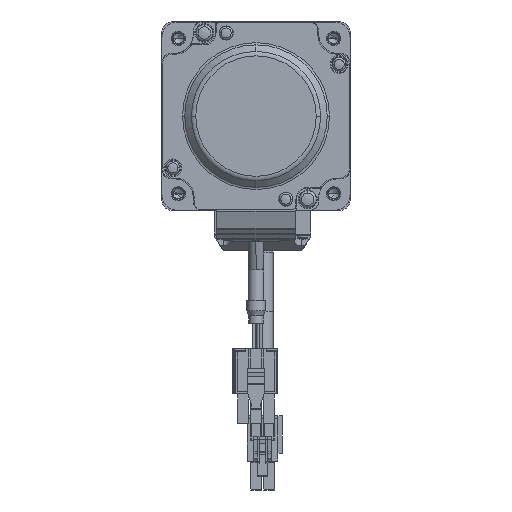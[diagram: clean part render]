
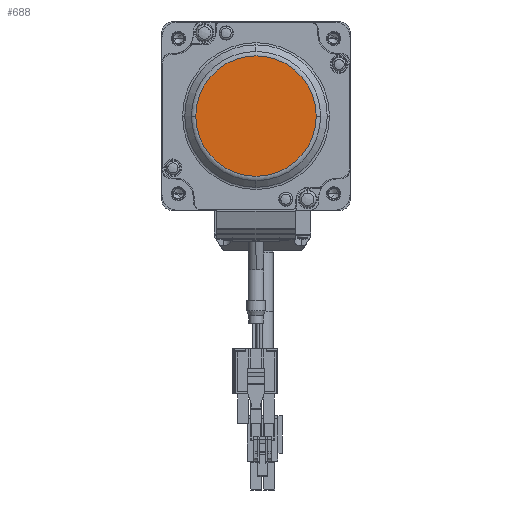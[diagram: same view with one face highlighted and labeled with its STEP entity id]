
A CAD part, left-side view. The second image highlights one B-rep face of the part: STEP entity #688.
In plain terms, the highlighted planar face has unit normal (-1, 0, 0).
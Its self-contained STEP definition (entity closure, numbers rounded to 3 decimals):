
#688 = ADVANCED_FACE ( 'NONE', ( #14290 ), #35587, .F. ) ;
#8084 = CARTESIAN_POINT ( 'NONE',  ( -88., -17., 27. ) ) ;
#8355 = CARTESIAN_POINT ( 'NONE',  ( -88., 0., 19.191 ) ) ;
#8980 = EDGE_CURVE ( 'NONE', #12028, #23476, #20797, .T. ) ;
#9759 = ORIENTED_EDGE ( 'NONE', *, *, #11042, .F. ) ;
#10099 = CIRCLE ( 'NONE', #14595, 19.191 ) ;
#11042 = EDGE_CURVE ( 'NONE', #23476, #12028, #10099, .T. ) ;
#12028 = VERTEX_POINT ( 'NONE', #8355 ) ;
#13031 = CARTESIAN_POINT ( 'NONE',  ( -88., 0., 0. ) ) ;
#13127 = DIRECTION ( 'NONE',  ( 1., 0., 0. ) ) ;
#13512 = CARTESIAN_POINT ( 'NONE',  ( -88., 0., 0. ) ) ;
#14290 = FACE_OUTER_BOUND ( 'NONE', #28509, .T. ) ;
#14595 = AXIS2_PLACEMENT_3D ( 'NONE', #13031, #16840, #19465 ) ;
#16840 = DIRECTION ( 'NONE',  ( 1., 0., 0. ) ) ;
#18205 = AXIS2_PLACEMENT_3D ( 'NONE', #13512, #13127, #19556 ) ;
#19465 = DIRECTION ( 'NONE',  ( 0., 0., -1. ) ) ;
#19556 = DIRECTION ( 'NONE',  ( 0., 0., -1. ) ) ;
#20797 = CIRCLE ( 'NONE', #18205, 19.191 ) ;
#20931 = DIRECTION ( 'NONE',  ( 1., 0., 0. ) ) ;
#20980 = ORIENTED_EDGE ( 'NONE', *, *, #8980, .F. ) ;
#23476 = VERTEX_POINT ( 'NONE', #30050 ) ;
#28509 = EDGE_LOOP ( 'NONE', ( #9759, #20980 ) ) ;
#30050 = CARTESIAN_POINT ( 'NONE',  ( -88., 0., -19.191 ) ) ;
#35587 = PLANE ( 'NONE',  #36793 ) ;
#36177 = DIRECTION ( 'NONE',  ( 0., 0., -1. ) ) ;
#36793 = AXIS2_PLACEMENT_3D ( 'NONE', #8084, #20931, #36177 ) ;
